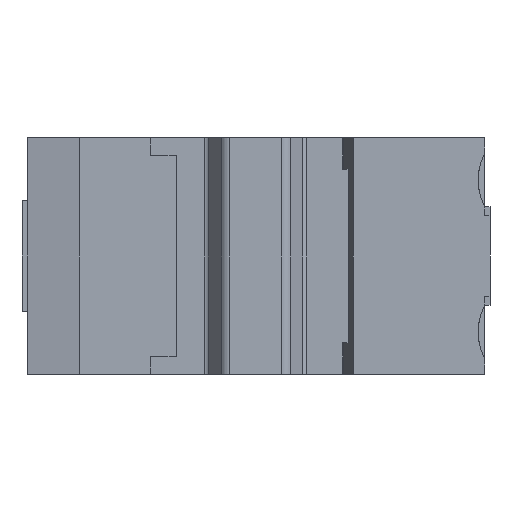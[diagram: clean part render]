
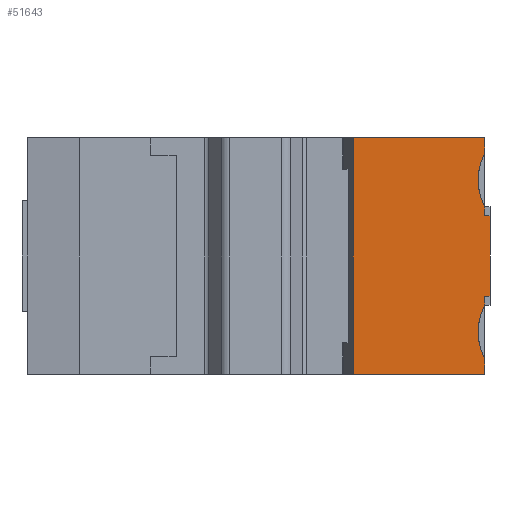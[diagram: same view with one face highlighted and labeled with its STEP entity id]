
A CAD part, front view. The second image highlights one B-rep face of the part: STEP entity #51643.
In plain terms, the highlighted planar face has unit normal (0, -1, 0).
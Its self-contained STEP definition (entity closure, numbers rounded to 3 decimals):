
#1051 = VECTOR ( 'NONE', #27342, 1000. ) ;
#1057 = ORIENTED_EDGE ( 'NONE', *, *, #16038, .T. ) ;
#1202 = VECTOR ( 'NONE', #2747, 1000. ) ;
#1219 = ORIENTED_EDGE ( 'NONE', *, *, #42047, .F. ) ;
#1503 = CARTESIAN_POINT ( 'NONE',  ( 53.246, -32.7, 14.45 ) ) ;
#1573 = CARTESIAN_POINT ( 'NONE',  ( 43.5, -32.7, -19.55 ) ) ;
#2249 = CARTESIAN_POINT ( 'NONE',  ( 18.5, -32.7, 0. ) ) ;
#2380 = LINE ( 'NONE', #31319, #1051 ) ;
#2747 = DIRECTION ( 'NONE',  ( 0., 0., 1. ) ) ;
#3131 = EDGE_CURVE ( 'NONE', #50510, #22214, #2380, .T. ) ;
#3295 = VECTOR ( 'NONE', #19401, 1000. ) ;
#3680 = EDGE_CURVE ( 'NONE', #28819, #38101, #9488, .T. ) ;
#3739 = VECTOR ( 'NONE', #51623, 1000. ) ;
#4268 = ORIENTED_EDGE ( 'NONE', *, *, #43610, .T. ) ;
#5259 = CARTESIAN_POINT ( 'NONE',  ( 43.5, -32.7, 19.55 ) ) ;
#5713 = DIRECTION ( 'NONE',  ( 0., 0., -1. ) ) ;
#5797 = CARTESIAN_POINT ( 'NONE',  ( 43.5, -32.7, -22.5 ) ) ;
#6636 = PLANE ( 'NONE',  #16737 ) ;
#7373 = CARTESIAN_POINT ( 'NONE',  ( 44.5, -32.7, -7.7 ) ) ;
#7502 = VERTEX_POINT ( 'NONE', #7373 ) ;
#7580 = ORIENTED_EDGE ( 'NONE', *, *, #46369, .F. ) ;
#8882 = EDGE_CURVE ( 'NONE', #7502, #25159, #38608, .T. ) ;
#9488 = LINE ( 'NONE', #51025, #42653 ) ;
#9510 = VERTEX_POINT ( 'NONE', #34428 ) ;
#9994 = DIRECTION ( 'NONE',  ( 0., 0., 1. ) ) ;
#10725 = LINE ( 'NONE', #2249, #53601 ) ;
#13212 = DIRECTION ( 'NONE',  ( 0., 0., -1. ) ) ;
#13297 = ORIENTED_EDGE ( 'NONE', *, *, #28876, .F. ) ;
#14068 = CIRCLE ( 'NONE', #50887, 11. ) ;
#14968 = DIRECTION ( 'NONE',  ( 0., 0., -1. ) ) ;
#16038 = EDGE_CURVE ( 'NONE', #22214, #20757, #28430, .T. ) ;
#16426 = VECTOR ( 'NONE', #22422, 1000. ) ;
#16437 = DIRECTION ( 'NONE',  ( 0., -1., 0. ) ) ;
#16737 = AXIS2_PLACEMENT_3D ( 'NONE', #35738, #39910, #14968 ) ;
#17240 = LINE ( 'NONE', #5797, #49145 ) ;
#19401 = DIRECTION ( 'NONE',  ( 0., 0., 1. ) ) ;
#20473 = ORIENTED_EDGE ( 'NONE', *, *, #44326, .F. ) ;
#20757 = VERTEX_POINT ( 'NONE', #48414 ) ;
#21633 = VERTEX_POINT ( 'NONE', #1573 ) ;
#22214 = VERTEX_POINT ( 'NONE', #22321 ) ;
#22321 = CARTESIAN_POINT ( 'NONE',  ( 43.5, -32.7, 7.7 ) ) ;
#22387 = EDGE_CURVE ( 'NONE', #42874, #25159, #47575, .T. ) ;
#22422 = DIRECTION ( 'NONE',  ( -1., 0., 0. ) ) ;
#25159 = VERTEX_POINT ( 'NONE', #42596 ) ;
#25276 = EDGE_LOOP ( 'NONE', ( #20473, #43579, #4268, #7580, #38214, #43744, #1219, #32486, #37598, #13297, #52166, #1057 ) ) ;
#26122 = DIRECTION ( 'NONE',  ( 1., 0., 0. ) ) ;
#26717 = CARTESIAN_POINT ( 'NONE',  ( 43.5, -32.7, 22.5 ) ) ;
#27056 = CARTESIAN_POINT ( 'NONE',  ( 43.5, -32.7, -22.5 ) ) ;
#27157 = VECTOR ( 'NONE', #47203, 1000. ) ;
#27342 = DIRECTION ( 'NONE',  ( -1., 0., 0. ) ) ;
#27667 = CARTESIAN_POINT ( 'NONE',  ( 43.5, -32.7, -22.5 ) ) ;
#28430 = LINE ( 'NONE', #39030, #27157 ) ;
#28819 = VERTEX_POINT ( 'NONE', #37794 ) ;
#28876 = EDGE_CURVE ( 'NONE', #50510, #7502, #47979, .T. ) ;
#30621 = DIRECTION ( 'NONE',  ( 0., -1., 0. ) ) ;
#31319 = CARTESIAN_POINT ( 'NONE',  ( 44.5, -32.7, 7.7 ) ) ;
#32486 = ORIENTED_EDGE ( 'NONE', *, *, #22387, .T. ) ;
#34221 = CARTESIAN_POINT ( 'NONE',  ( 43.5, -32.7, -9.35 ) ) ;
#34428 = CARTESIAN_POINT ( 'NONE',  ( 43.5, -32.7, 22.5 ) ) ;
#35118 = AXIS2_PLACEMENT_3D ( 'NONE', #41374, #16437, #45555 ) ;
#35624 = VECTOR ( 'NONE', #13212, 1000. ) ;
#35738 = CARTESIAN_POINT ( 'NONE',  ( 0., -32.7, 0. ) ) ;
#37598 = ORIENTED_EDGE ( 'NONE', *, *, #8882, .F. ) ;
#37794 = CARTESIAN_POINT ( 'NONE',  ( 18.5, -32.7, -22.5 ) ) ;
#38101 = VERTEX_POINT ( 'NONE', #27056 ) ;
#38214 = ORIENTED_EDGE ( 'NONE', *, *, #3680, .T. ) ;
#38255 = LINE ( 'NONE', #26717, #3739 ) ;
#38608 = LINE ( 'NONE', #39160, #16426 ) ;
#39030 = CARTESIAN_POINT ( 'NONE',  ( 43.5, -32.7, -22.5 ) ) ;
#39160 = CARTESIAN_POINT ( 'NONE',  ( 44.5, -32.7, -7.7 ) ) ;
#39910 = DIRECTION ( 'NONE',  ( 0., -1., 0. ) ) ;
#40502 = CARTESIAN_POINT ( 'NONE',  ( 43.5, -32.7, -22.5 ) ) ;
#41374 = CARTESIAN_POINT ( 'NONE',  ( 53.246, -32.7, -14.45 ) ) ;
#42047 = EDGE_CURVE ( 'NONE', #42874, #21633, #45524, .T. ) ;
#42340 = CARTESIAN_POINT ( 'NONE',  ( 44.5, -32.7, -7.7 ) ) ;
#42596 = CARTESIAN_POINT ( 'NONE',  ( 43.5, -32.7, -7.7 ) ) ;
#42653 = VECTOR ( 'NONE', #26122, 1000. ) ;
#42874 = VERTEX_POINT ( 'NONE', #34221 ) ;
#43085 = EDGE_CURVE ( 'NONE', #38101, #21633, #45429, .T. ) ;
#43579 = ORIENTED_EDGE ( 'NONE', *, *, #50935, .T. ) ;
#43610 = EDGE_CURVE ( 'NONE', #9510, #46657, #38255, .T. ) ;
#43744 = ORIENTED_EDGE ( 'NONE', *, *, #43085, .T. ) ;
#43899 = FACE_OUTER_BOUND ( 'NONE', #25276, .T. ) ;
#44326 = EDGE_CURVE ( 'NONE', #52413, #20757, #14068, .T. ) ;
#45429 = LINE ( 'NONE', #27667, #1202 ) ;
#45524 = CIRCLE ( 'NONE', #35118, 11. ) ;
#45555 = DIRECTION ( 'NONE',  ( 0., 0., -1. ) ) ;
#46008 = CARTESIAN_POINT ( 'NONE',  ( 18.5, -32.7, 22.5 ) ) ;
#46369 = EDGE_CURVE ( 'NONE', #28819, #46657, #10725, .T. ) ;
#46657 = VERTEX_POINT ( 'NONE', #46008 ) ;
#47203 = DIRECTION ( 'NONE',  ( 0., 0., 1. ) ) ;
#47575 = LINE ( 'NONE', #40502, #3295 ) ;
#47949 = CARTESIAN_POINT ( 'NONE',  ( 44.5, -32.7, 7.7 ) ) ;
#47979 = LINE ( 'NONE', #42340, #35624 ) ;
#48414 = CARTESIAN_POINT ( 'NONE',  ( 43.5, -32.7, 9.35 ) ) ;
#49145 = VECTOR ( 'NONE', #9994, 1000. ) ;
#50510 = VERTEX_POINT ( 'NONE', #47949 ) ;
#50887 = AXIS2_PLACEMENT_3D ( 'NONE', #1503, #30621, #5713 ) ;
#50935 = EDGE_CURVE ( 'NONE', #52413, #9510, #17240, .T. ) ;
#51025 = CARTESIAN_POINT ( 'NONE',  ( -43.5, -32.7, -22.5 ) ) ;
#51623 = DIRECTION ( 'NONE',  ( -1., 0., 0. ) ) ;
#51643 = ADVANCED_FACE ( 'NONE', ( #43899 ), #6636, .T. ) ;
#52166 = ORIENTED_EDGE ( 'NONE', *, *, #3131, .T. ) ;
#52413 = VERTEX_POINT ( 'NONE', #5259 ) ;
#52431 = DIRECTION ( 'NONE',  ( 0., 0., 1. ) ) ;
#53601 = VECTOR ( 'NONE', #52431, 1000. ) ;
